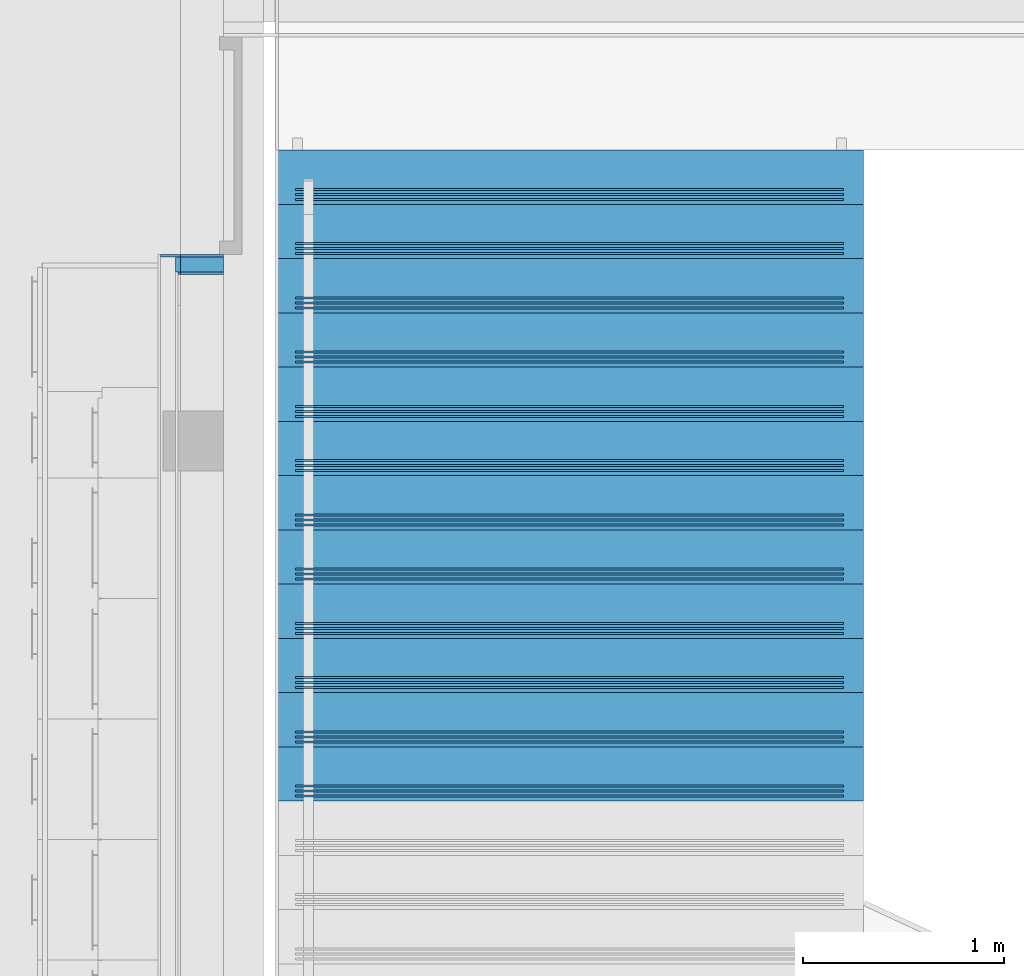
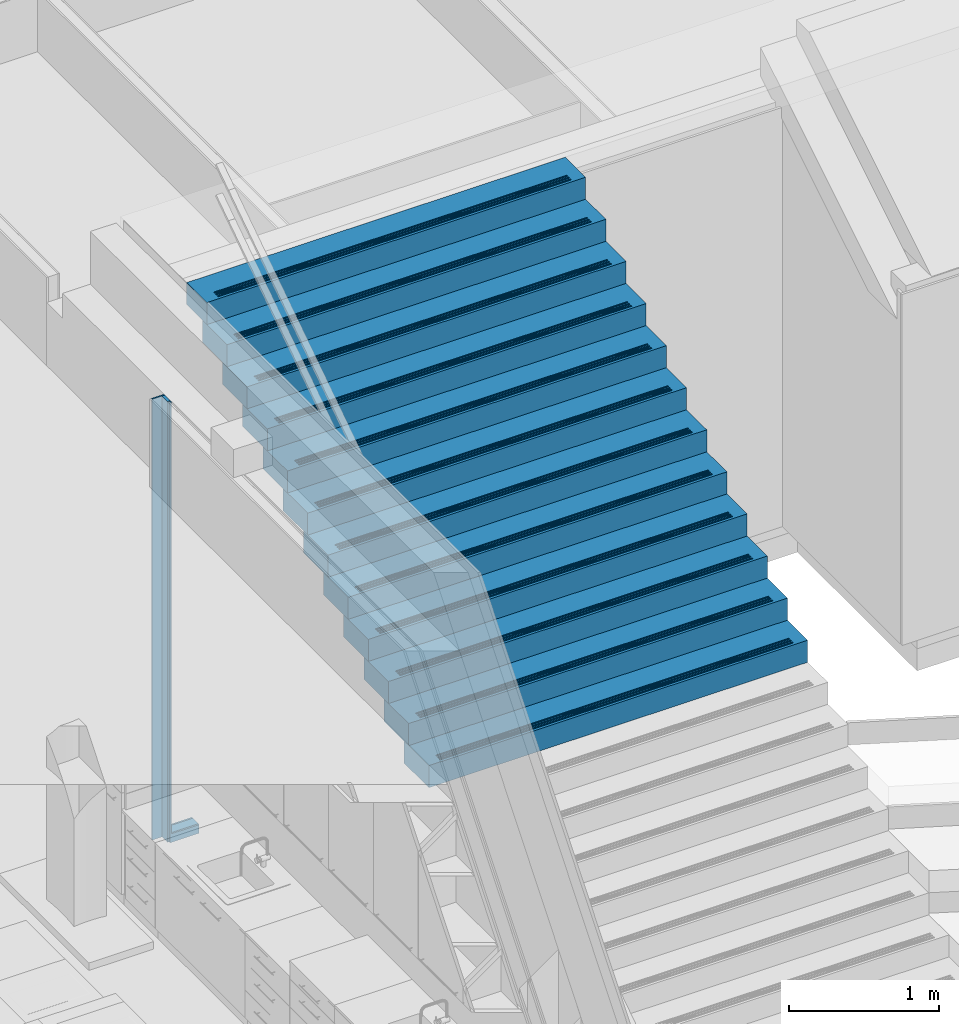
# One storey, part 69 of 167: 27 building element parts, 14 elements without a shape of their own.
"""IFC2X3 building model written with IfcOpenShell, lengths in millimetres."""

from ifc_helpers import new_model, entity, si_unit, converted_unit, derived_unit, money_unit, direction, frame, origin_with_axes, place, context, subcontext, project, spatial, faceted_brep, material, type_object, element, aggregate, save


model = new_model("IFC2X3")

# Units and contexts
model_context = context("Model", 3, precision=0.01, world=origin_with_axes(), true_north=direction((0.0, 1.0)))
plan_context = context("Plan", 3, precision=0.01, world=origin_with_axes(), true_north=direction((0.0, 1.0)))
body_context = subcontext(model_context, "Body", "Model", "MODEL_VIEW")
ifc_project = project(units=[si_unit("LENGTHUNIT", "METRE", prefix="MILLI"), si_unit("AREAUNIT", "SQUARE_METRE"), si_unit("VOLUMEUNIT", "CUBIC_METRE"), converted_unit("PLANEANGLEUNIT", "DEGREE", entity("IfcPlaneAngleMeasure", 0.0174532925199), si_unit("PLANEANGLEUNIT", "RADIAN"), dimensions=[0, 0, 0, 0, 0, 0, 0]), si_unit("SOLIDANGLEUNIT", "STERADIAN"), money_unit("EUR"), converted_unit("TIMEUNIT", "Year", entity("IfcTimeMeasure", 31556926.0), si_unit("TIMEUNIT", "SECOND"), dimensions=[0, 0, 1, 0, 0, 0, 0]), si_unit("MASSUNIT", "GRAM", prefix="KILO"), si_unit("THERMODYNAMICTEMPERATUREUNIT", "DEGREE_CELSIUS"), si_unit("LUMINOUSINTENSITYUNIT", "LUMEN"), si_unit("ENERGYUNIT", "JOULE", prefix="MEGA"), derived_unit("THERMALCONDUCTANCEUNIT", [(si_unit("POWERUNIT", "WATT"), 1), (si_unit("LENGTHUNIT", "METRE"), -1), (si_unit("THERMODYNAMICTEMPERATUREUNIT", "KELVIN"), -1)]), derived_unit("SPECIFICHEATCAPACITYUNIT", [(si_unit("ENERGYUNIT", "JOULE"), 1), (si_unit("MASSUNIT", "GRAM", prefix="KILO"), -1), (si_unit("THERMODYNAMICTEMPERATUREUNIT", "KELVIN"), -1)]), derived_unit("MASSDENSITYUNIT", [(si_unit("MASSUNIT", "GRAM", prefix="KILO"), 1), (si_unit("VOLUMEUNIT", "CUBIC_METRE"), -1)])], contexts=[model_context, plan_context])

# Site, building, storey
site_placement = place(None, origin_with_axes())
site = spatial("IfcSite", under=ifc_project, at=site_placement, Name="Site", CompositionType="ELEMENT")
building_placement = place(site_placement, origin_with_axes())
building = spatial("IfcBuilding", under=site, at=building_placement, Name="Naam gebouw", CompositionType="ELEMENT")
storey_placement = place(building_placement, origin_with_axes())
storey = spatial("IfcBuildingStorey", under=building, at=storey_placement, Name="Begane grond", CompositionType="ELEMENT", Elevation=0.0)

# Stair, members, building element parts
stair_placement = place(storey_placement, frame((29059.9559721, 24308.0128651, 0.0), z_axis=(0.0, 0.0, 1.0), x_axis=(1.0, 0.0, 0.0)))
stair = element("IfcStair", 1, at=stair_placement, inside=storey, Name="_Trap_Trap-x", ShapeType="NOTDEFINED")
member_type = type_object("IfcMemberType", Name="IfcMember", PredefinedType="USERDEFINED")
member_1_placement = place(stair_placement, frame((1500.0, 2700.0, 1980.0), z_axis=(0.0, 0.0, 1.0), x_axis=(1.0, 0.0, 0.0)))
member_1 = element("IfcMember", 2, at=member_1_placement, type_object=member_type, Name="_Trap - trede_Traptrede-x")
ifc_material_1 = material(Name="Beton gewapend prefab")
building_element_part_1_placement = place(member_1_placement, origin_with_axes())
building_element_part_1 = element("IfcBuildingElementPart", 3, at=building_element_part_1_placement, material=ifc_material_1, Name="Beton gewapend prefab", context=body_context, shape_type="Brep", body=[
    faceted_brep([(-1500.0, 0.0, -180.0), (1426.0418928, 0.0, -180.0), (1426.0418928, 0.0, 0.0), (-1500.0, 0.0, 0.0), (-1500.0, 329.999987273, -180.0), (1426.0418928, 329.999987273, -180.0), (1426.0418928, 329.999987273, 0.0), (-1500.0, 329.999987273, 0.0)], [[[0, 1, 2, 3]], [[0, 4, 5, 1]], [[1, 5, 6, 2]], [[3, 2, 6, 7]], [[4, 0, 3, 7]], [[5, 4, 7, 6]]]),
])
ifc_material_2 = material(Name="Beton gewapend prefab vloer")
building_element_part_2_placement = place(member_1_placement, origin_with_axes())
building_element_part_2 = element("IfcBuildingElementPart", 4, at=building_element_part_2_placement, material=ifc_material_2, Name="Beton gewapend prefab vloer", context=body_context, shape_type="Brep", body=[
    faceted_brep([(-1399.99999989, 19.9999913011, 0.0), (-1399.99999989, 29.9999913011, 0.0), (1326.04189269, 29.9999913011, 0.0), (1326.04189269, 19.9999913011, 0.0), (-1399.99999989, 19.9999913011, 3.0), (-1399.99999989, 29.9999913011, 3.0), (1326.04189269, 29.9999913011, 3.0), (1326.04189269, 19.9999913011, 3.0)], [[[0, 1, 2, 3]], [[0, 4, 5, 1]], [[1, 5, 6, 2]], [[3, 2, 6, 7]], [[4, 0, 3, 7]], [[5, 4, 7, 6]]]),
    faceted_brep([(-1399.99999989, 44.9999804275, 0.0), (-1399.99999989, 54.9999804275, 0.0), (1326.04189269, 54.9999804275, 0.0), (1326.04189269, 44.9999804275, 0.0), (-1399.99999989, 44.9999804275, 3.0), (-1399.99999989, 54.9999804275, 3.0), (1326.04189269, 54.9999804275, 3.0), (1326.04189269, 44.9999804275, 3.0)], [[[0, 1, 2, 3]], [[0, 4, 5, 1]], [[1, 5, 6, 2]], [[3, 2, 6, 7]], [[4, 0, 3, 7]], [[5, 4, 7, 6]]]),
    faceted_brep([(-1399.99999989, 70.0000131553, 0.0), (-1399.99999989, 80.0000131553, 0.0), (1326.04189269, 80.0000131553, 0.0), (1326.04189269, 70.0000131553, 0.0), (-1399.99999989, 70.0000131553, 3.0), (-1399.99999989, 80.0000131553, 3.0), (1326.04189269, 80.0000131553, 3.0), (1326.04189269, 70.0000131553, 3.0)], [[[0, 1, 2, 3]], [[0, 4, 5, 1]], [[1, 5, 6, 2]], [[3, 2, 6, 7]], [[4, 0, 3, 7]], [[5, 4, 7, 6]]]),
])
aggregate(member_1, [building_element_part_1, building_element_part_2])
member_2_placement = place(stair_placement, frame((1500.0, 2970.0, 2160.0), z_axis=(0.0, 0.0, 1.0), x_axis=(1.0, 0.0, 0.0)))
member_2 = element("IfcMember", 5, at=member_2_placement, type_object=member_type, Name="_Trap - trede_Traptrede-x")
building_element_part_3_placement = place(member_2_placement, origin_with_axes())
building_element_part_3 = element("IfcBuildingElementPart", 6, at=building_element_part_3_placement, material=ifc_material_1, Name="Beton gewapend prefab", context=body_context, shape_type="Brep", body=[
    faceted_brep([(-1500.0, 0.0, -180.0), (1426.0418928, 0.0, -180.0), (1426.0418928, 0.0, 0.0), (-1500.0, 0.0, 0.0), (-1500.0, 329.999987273, -180.0), (1426.0418928, 329.999987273, -180.0), (1426.0418928, 329.999987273, 0.0), (-1500.0, 329.999987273, 0.0)], [[[0, 1, 2, 3]], [[0, 4, 5, 1]], [[1, 5, 6, 2]], [[3, 2, 6, 7]], [[4, 0, 3, 7]], [[5, 4, 7, 6]]]),
])
building_element_part_4_placement = place(member_2_placement, origin_with_axes())
building_element_part_4 = element("IfcBuildingElementPart", 7, at=building_element_part_4_placement, material=ifc_material_2, Name="Beton gewapend prefab vloer", context=body_context, shape_type="Brep", body=[
    faceted_brep([(-1399.99999989, 19.9999913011, 0.0), (-1399.99999989, 29.9999913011, 0.0), (1326.04189269, 29.9999913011, 0.0), (1326.04189269, 19.9999913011, 0.0), (-1399.99999989, 19.9999913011, 3.0), (-1399.99999989, 29.9999913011, 3.0), (1326.04189269, 29.9999913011, 3.0), (1326.04189269, 19.9999913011, 3.0)], [[[0, 1, 2, 3]], [[0, 4, 5, 1]], [[1, 5, 6, 2]], [[3, 2, 6, 7]], [[4, 0, 3, 7]], [[5, 4, 7, 6]]]),
    faceted_brep([(-1399.99999989, 44.9999804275, 0.0), (-1399.99999989, 54.9999804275, 0.0), (1326.04189269, 54.9999804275, 0.0), (1326.04189269, 44.9999804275, 0.0), (-1399.99999989, 44.9999804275, 3.0), (-1399.99999989, 54.9999804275, 3.0), (1326.04189269, 54.9999804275, 3.0), (1326.04189269, 44.9999804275, 3.0)], [[[0, 1, 2, 3]], [[0, 4, 5, 1]], [[1, 5, 6, 2]], [[3, 2, 6, 7]], [[4, 0, 3, 7]], [[5, 4, 7, 6]]]),
    faceted_brep([(-1399.99999989, 70.0000131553, 0.0), (-1399.99999989, 80.0000131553, 0.0), (1326.04189269, 80.0000131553, 0.0), (1326.04189269, 70.0000131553, 0.0), (-1399.99999989, 70.0000131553, 3.0), (-1399.99999989, 80.0000131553, 3.0), (1326.04189269, 80.0000131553, 3.0), (1326.04189269, 70.0000131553, 3.0)], [[[0, 1, 2, 3]], [[0, 4, 5, 1]], [[1, 5, 6, 2]], [[3, 2, 6, 7]], [[4, 0, 3, 7]], [[5, 4, 7, 6]]]),
])
aggregate(member_2, [building_element_part_3, building_element_part_4])
member_3_placement = place(stair_placement, frame((1500.0, 3240.0, 2340.0), z_axis=(0.0, 0.0, 1.0), x_axis=(1.0, 0.0, 0.0)))
member_3 = element("IfcMember", 8, at=member_3_placement, type_object=member_type, Name="_Trap - trede_Traptrede-x")
building_element_part_5_placement = place(member_3_placement, origin_with_axes())
building_element_part_5 = element("IfcBuildingElementPart", 9, at=building_element_part_5_placement, material=ifc_material_1, Name="Beton gewapend prefab", context=body_context, shape_type="Brep", body=[
    faceted_brep([(-1500.0, 0.0, -180.0), (1426.0418928, 0.0, -180.0), (1426.0418928, 0.0, 0.0), (-1500.0, 0.0, 0.0), (-1500.0, 329.999987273, -180.0), (1426.0418928, 329.999987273, -180.0), (1426.0418928, 329.999987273, 0.0), (-1500.0, 329.999987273, 0.0)], [[[0, 1, 2, 3]], [[0, 4, 5, 1]], [[1, 5, 6, 2]], [[3, 2, 6, 7]], [[4, 0, 3, 7]], [[5, 4, 7, 6]]]),
])
building_element_part_6_placement = place(member_3_placement, origin_with_axes())
building_element_part_6 = element("IfcBuildingElementPart", 10, at=building_element_part_6_placement, material=ifc_material_2, Name="Beton gewapend prefab vloer", context=body_context, shape_type="Brep", body=[
    faceted_brep([(-1399.99999989, 19.9999913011, 0.0), (-1399.99999989, 29.9999913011, 0.0), (1326.04189269, 29.9999913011, 0.0), (1326.04189269, 19.9999913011, 0.0), (-1399.99999989, 19.9999913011, 3.0), (-1399.99999989, 29.9999913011, 3.0), (1326.04189269, 29.9999913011, 3.0), (1326.04189269, 19.9999913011, 3.0)], [[[0, 1, 2, 3]], [[0, 4, 5, 1]], [[1, 5, 6, 2]], [[3, 2, 6, 7]], [[4, 0, 3, 7]], [[5, 4, 7, 6]]]),
    faceted_brep([(-1399.99999989, 44.9999804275, 0.0), (-1399.99999989, 54.9999804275, 0.0), (1326.04189269, 54.9999804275, 0.0), (1326.04189269, 44.9999804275, 0.0), (-1399.99999989, 44.9999804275, 3.0), (-1399.99999989, 54.9999804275, 3.0), (1326.04189269, 54.9999804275, 3.0), (1326.04189269, 44.9999804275, 3.0)], [[[0, 1, 2, 3]], [[0, 4, 5, 1]], [[1, 5, 6, 2]], [[3, 2, 6, 7]], [[4, 0, 3, 7]], [[5, 4, 7, 6]]]),
    faceted_brep([(-1399.99999989, 70.0000131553, 0.0), (-1399.99999989, 80.0000131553, 0.0), (1326.04189269, 80.0000131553, 0.0), (1326.04189269, 70.0000131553, 0.0), (-1399.99999989, 70.0000131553, 3.0), (-1399.99999989, 80.0000131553, 3.0), (1326.04189269, 80.0000131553, 3.0), (1326.04189269, 70.0000131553, 3.0)], [[[0, 1, 2, 3]], [[0, 4, 5, 1]], [[1, 5, 6, 2]], [[3, 2, 6, 7]], [[4, 0, 3, 7]], [[5, 4, 7, 6]]]),
])
aggregate(member_3, [building_element_part_5, building_element_part_6])
member_4_placement = place(stair_placement, frame((1500.0, 3510.0, 2520.0), z_axis=(0.0, 0.0, 1.0), x_axis=(1.0, 0.0, 0.0)))
member_4 = element("IfcMember", 11, at=member_4_placement, type_object=member_type, Name="_Trap - trede_Traptrede-x")
building_element_part_7_placement = place(member_4_placement, origin_with_axes())
building_element_part_7 = element("IfcBuildingElementPart", 12, at=building_element_part_7_placement, material=ifc_material_1, Name="Beton gewapend prefab", context=body_context, shape_type="Brep", body=[
    faceted_brep([(-1500.0, 0.0, -180.0), (1426.0418928, 0.0, -180.0), (1426.0418928, 0.0, 0.0), (-1500.0, 0.0, 0.0), (-1500.0, 329.999987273, -180.0), (1426.0418928, 329.999987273, -180.0), (1426.0418928, 329.999987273, 0.0), (-1500.0, 329.999987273, 0.0)], [[[0, 1, 2, 3]], [[0, 4, 5, 1]], [[1, 5, 6, 2]], [[3, 2, 6, 7]], [[4, 0, 3, 7]], [[5, 4, 7, 6]]]),
])
building_element_part_8_placement = place(member_4_placement, origin_with_axes())
building_element_part_8 = element("IfcBuildingElementPart", 13, at=building_element_part_8_placement, material=ifc_material_2, Name="Beton gewapend prefab vloer", context=body_context, shape_type="Brep", body=[
    faceted_brep([(-1399.99999989, 19.9999913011, 0.0), (-1399.99999989, 29.9999913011, 0.0), (1326.04189269, 29.9999913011, 0.0), (1326.04189269, 19.9999913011, 0.0), (-1399.99999989, 19.9999913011, 3.0), (-1399.99999989, 29.9999913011, 3.0), (1326.04189269, 29.9999913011, 3.0), (1326.04189269, 19.9999913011, 3.0)], [[[0, 1, 2, 3]], [[0, 4, 5, 1]], [[1, 5, 6, 2]], [[3, 2, 6, 7]], [[4, 0, 3, 7]], [[5, 4, 7, 6]]]),
    faceted_brep([(-1399.99999989, 44.9999804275, 0.0), (-1399.99999989, 54.9999804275, 0.0), (1326.04189269, 54.9999804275, 0.0), (1326.04189269, 44.9999804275, 0.0), (-1399.99999989, 44.9999804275, 3.0), (-1399.99999989, 54.9999804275, 3.0), (1326.04189269, 54.9999804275, 3.0), (1326.04189269, 44.9999804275, 3.0)], [[[0, 1, 2, 3]], [[0, 4, 5, 1]], [[1, 5, 6, 2]], [[3, 2, 6, 7]], [[4, 0, 3, 7]], [[5, 4, 7, 6]]]),
    faceted_brep([(-1399.99999989, 70.0000131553, 0.0), (-1399.99999989, 80.0000131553, 0.0), (1326.04189269, 80.0000131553, 0.0), (1326.04189269, 70.0000131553, 0.0), (-1399.99999989, 70.0000131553, 3.0), (-1399.99999989, 80.0000131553, 3.0), (1326.04189269, 80.0000131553, 3.0), (1326.04189269, 70.0000131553, 3.0)], [[[0, 1, 2, 3]], [[0, 4, 5, 1]], [[1, 5, 6, 2]], [[3, 2, 6, 7]], [[4, 0, 3, 7]], [[5, 4, 7, 6]]]),
])
aggregate(member_4, [building_element_part_7, building_element_part_8])
member_5_placement = place(stair_placement, frame((1500.0, 3780.0, 2700.0), z_axis=(0.0, 0.0, 1.0), x_axis=(1.0, 0.0, 0.0)))
member_5 = element("IfcMember", 14, at=member_5_placement, type_object=member_type, Name="_Trap - trede_Traptrede-x")
building_element_part_9_placement = place(member_5_placement, origin_with_axes())
building_element_part_9 = element("IfcBuildingElementPart", 15, at=building_element_part_9_placement, material=ifc_material_1, Name="Beton gewapend prefab", context=body_context, shape_type="Brep", body=[
    faceted_brep([(-1500.0, 0.0, -180.0), (1426.0418928, 0.0, -180.0), (1426.0418928, 0.0, 0.0), (-1500.0, 0.0, 0.0), (-1500.0, 329.999987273, -180.0), (1426.0418928, 329.999987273, -180.0), (1426.0418928, 329.999987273, 0.0), (-1500.0, 329.999987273, 0.0)], [[[0, 1, 2, 3]], [[0, 4, 5, 1]], [[1, 5, 6, 2]], [[3, 2, 6, 7]], [[4, 0, 3, 7]], [[5, 4, 7, 6]]]),
])
building_element_part_10_placement = place(member_5_placement, origin_with_axes())
building_element_part_10 = element("IfcBuildingElementPart", 16, at=building_element_part_10_placement, material=ifc_material_2, Name="Beton gewapend prefab vloer", context=body_context, shape_type="Brep", body=[
    faceted_brep([(-1399.99999989, 19.9999913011, 0.0), (-1399.99999989, 29.9999913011, 0.0), (1326.04189269, 29.9999913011, 0.0), (1326.04189269, 19.9999913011, 0.0), (-1399.99999989, 19.9999913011, 3.0), (-1399.99999989, 29.9999913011, 3.0), (1326.04189269, 29.9999913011, 3.0), (1326.04189269, 19.9999913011, 3.0)], [[[0, 1, 2, 3]], [[0, 4, 5, 1]], [[1, 5, 6, 2]], [[3, 2, 6, 7]], [[4, 0, 3, 7]], [[5, 4, 7, 6]]]),
    faceted_brep([(-1399.99999989, 44.9999804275, 0.0), (-1399.99999989, 54.9999804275, 0.0), (1326.04189269, 54.9999804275, 0.0), (1326.04189269, 44.9999804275, 0.0), (-1399.99999989, 44.9999804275, 3.0), (-1399.99999989, 54.9999804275, 3.0), (1326.04189269, 54.9999804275, 3.0), (1326.04189269, 44.9999804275, 3.0)], [[[0, 1, 2, 3]], [[0, 4, 5, 1]], [[1, 5, 6, 2]], [[3, 2, 6, 7]], [[4, 0, 3, 7]], [[5, 4, 7, 6]]]),
    faceted_brep([(-1399.99999989, 70.0000131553, 0.0), (-1399.99999989, 80.0000131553, 0.0), (1326.04189269, 80.0000131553, 0.0), (1326.04189269, 70.0000131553, 0.0), (-1399.99999989, 70.0000131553, 3.0), (-1399.99999989, 80.0000131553, 3.0), (1326.04189269, 80.0000131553, 3.0), (1326.04189269, 70.0000131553, 3.0)], [[[0, 1, 2, 3]], [[0, 4, 5, 1]], [[1, 5, 6, 2]], [[3, 2, 6, 7]], [[4, 0, 3, 7]], [[5, 4, 7, 6]]]),
])
aggregate(member_5, [building_element_part_9, building_element_part_10])
member_6_placement = place(stair_placement, frame((1500.0, 4050.0, 2880.0), z_axis=(0.0, 0.0, 1.0), x_axis=(1.0, 0.0, 0.0)))
member_6 = element("IfcMember", 17, at=member_6_placement, type_object=member_type, Name="_Trap - trede_Traptrede-x")
building_element_part_11_placement = place(member_6_placement, origin_with_axes())
building_element_part_11 = element("IfcBuildingElementPart", 18, at=building_element_part_11_placement, material=ifc_material_1, Name="Beton gewapend prefab", context=body_context, shape_type="Brep", body=[
    faceted_brep([(-1500.0, 0.0, -180.0), (1426.0418928, 0.0, -180.0), (1426.0418928, 0.0, 0.0), (-1500.0, 0.0, 0.0), (-1500.0, 329.999987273, -180.0), (1426.0418928, 329.999987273, -180.0), (1426.0418928, 329.999987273, 0.0), (-1500.0, 329.999987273, 0.0)], [[[0, 1, 2, 3]], [[0, 4, 5, 1]], [[1, 5, 6, 2]], [[3, 2, 6, 7]], [[4, 0, 3, 7]], [[5, 4, 7, 6]]]),
])
building_element_part_12_placement = place(member_6_placement, origin_with_axes())
building_element_part_12 = element("IfcBuildingElementPart", 19, at=building_element_part_12_placement, material=ifc_material_2, Name="Beton gewapend prefab vloer", context=body_context, shape_type="Brep", body=[
    faceted_brep([(-1399.99999989, 19.9999913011, 0.0), (-1399.99999989, 29.9999913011, 0.0), (1326.04189269, 29.9999913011, 0.0), (1326.04189269, 19.9999913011, 0.0), (-1399.99999989, 19.9999913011, 3.0), (-1399.99999989, 29.9999913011, 3.0), (1326.04189269, 29.9999913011, 3.0), (1326.04189269, 19.9999913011, 3.0)], [[[0, 1, 2, 3]], [[0, 4, 5, 1]], [[1, 5, 6, 2]], [[3, 2, 6, 7]], [[4, 0, 3, 7]], [[5, 4, 7, 6]]]),
    faceted_brep([(-1399.99999989, 44.9999804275, 0.0), (-1399.99999989, 54.9999804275, 0.0), (1326.04189269, 54.9999804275, 0.0), (1326.04189269, 44.9999804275, 0.0), (-1399.99999989, 44.9999804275, 3.0), (-1399.99999989, 54.9999804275, 3.0), (1326.04189269, 54.9999804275, 3.0), (1326.04189269, 44.9999804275, 3.0)], [[[0, 1, 2, 3]], [[0, 4, 5, 1]], [[1, 5, 6, 2]], [[3, 2, 6, 7]], [[4, 0, 3, 7]], [[5, 4, 7, 6]]]),
    faceted_brep([(-1399.99999989, 70.0000131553, 0.0), (-1399.99999989, 80.0000131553, 0.0), (1326.04189269, 80.0000131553, 0.0), (1326.04189269, 70.0000131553, 0.0), (-1399.99999989, 70.0000131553, 3.0), (-1399.99999989, 80.0000131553, 3.0), (1326.04189269, 80.0000131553, 3.0), (1326.04189269, 70.0000131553, 3.0)], [[[0, 1, 2, 3]], [[0, 4, 5, 1]], [[1, 5, 6, 2]], [[3, 2, 6, 7]], [[4, 0, 3, 7]], [[5, 4, 7, 6]]]),
])
aggregate(member_6, [building_element_part_11, building_element_part_12])
member_7_placement = place(stair_placement, frame((1500.0, 4320.0, 3060.0), z_axis=(0.0, 0.0, 1.0), x_axis=(1.0, 0.0, 0.0)))
member_7 = element("IfcMember", 20, at=member_7_placement, type_object=member_type, Name="_Trap - trede_Traptrede-x")
building_element_part_13_placement = place(member_7_placement, origin_with_axes())
building_element_part_13 = element("IfcBuildingElementPart", 21, at=building_element_part_13_placement, material=ifc_material_1, Name="Beton gewapend prefab", context=body_context, shape_type="Brep", body=[
    faceted_brep([(-1500.0, 0.0, -180.0), (1426.0418928, 0.0, -180.0), (1426.0418928, 0.0, 0.0), (-1500.0, 0.0, 0.0), (-1500.0, 329.999987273, -180.0), (1426.0418928, 329.999987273, -180.0), (1426.0418928, 329.999987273, 0.0), (-1500.0, 329.999987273, 0.0)], [[[0, 1, 2, 3]], [[0, 4, 5, 1]], [[1, 5, 6, 2]], [[3, 2, 6, 7]], [[4, 0, 3, 7]], [[5, 4, 7, 6]]]),
])
building_element_part_14_placement = place(member_7_placement, origin_with_axes())
building_element_part_14 = element("IfcBuildingElementPart", 22, at=building_element_part_14_placement, material=ifc_material_2, Name="Beton gewapend prefab vloer", context=body_context, shape_type="Brep", body=[
    faceted_brep([(-1399.99999989, 19.9999913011, 0.0), (-1399.99999989, 29.9999913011, 0.0), (1326.04189269, 29.9999913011, 0.0), (1326.04189269, 19.9999913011, 0.0), (-1399.99999989, 19.9999913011, 3.0), (-1399.99999989, 29.9999913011, 3.0), (1326.04189269, 29.9999913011, 3.0), (1326.04189269, 19.9999913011, 3.0)], [[[0, 1, 2, 3]], [[0, 4, 5, 1]], [[1, 5, 6, 2]], [[3, 2, 6, 7]], [[4, 0, 3, 7]], [[5, 4, 7, 6]]]),
    faceted_brep([(-1399.99999989, 44.9999804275, 0.0), (-1399.99999989, 54.9999804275, 0.0), (1326.04189269, 54.9999804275, 0.0), (1326.04189269, 44.9999804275, 0.0), (-1399.99999989, 44.9999804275, 3.0), (-1399.99999989, 54.9999804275, 3.0), (1326.04189269, 54.9999804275, 3.0), (1326.04189269, 44.9999804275, 3.0)], [[[0, 1, 2, 3]], [[0, 4, 5, 1]], [[1, 5, 6, 2]], [[3, 2, 6, 7]], [[4, 0, 3, 7]], [[5, 4, 7, 6]]]),
    faceted_brep([(-1399.99999989, 70.0000131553, 0.0), (-1399.99999989, 80.0000131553, 0.0), (1326.04189269, 80.0000131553, 0.0), (1326.04189269, 70.0000131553, 0.0), (-1399.99999989, 70.0000131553, 3.0), (-1399.99999989, 80.0000131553, 3.0), (1326.04189269, 80.0000131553, 3.0), (1326.04189269, 70.0000131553, 3.0)], [[[0, 1, 2, 3]], [[0, 4, 5, 1]], [[1, 5, 6, 2]], [[3, 2, 6, 7]], [[4, 0, 3, 7]], [[5, 4, 7, 6]]]),
])
aggregate(member_7, [building_element_part_13, building_element_part_14])
member_8_placement = place(stair_placement, frame((1500.0, 4590.0, 3240.0), z_axis=(0.0, 0.0, 1.0), x_axis=(1.0, 0.0, 0.0)))
member_8 = element("IfcMember", 23, at=member_8_placement, type_object=member_type, Name="_Trap - trede_Traptrede-x")
building_element_part_15_placement = place(member_8_placement, origin_with_axes())
building_element_part_15 = element("IfcBuildingElementPart", 24, at=building_element_part_15_placement, material=ifc_material_1, Name="Beton gewapend prefab", context=body_context, shape_type="Brep", body=[
    faceted_brep([(-1500.0, 0.0, -180.0), (1426.0418928, 0.0, -180.0), (1426.0418928, 0.0, 0.0), (-1500.0, 0.0, 0.0), (-1500.0, 329.999987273, -180.0), (1426.0418928, 329.999987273, -180.0), (1426.0418928, 329.999987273, 0.0), (-1500.0, 329.999987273, 0.0)], [[[0, 1, 2, 3]], [[0, 4, 5, 1]], [[1, 5, 6, 2]], [[3, 2, 6, 7]], [[4, 0, 3, 7]], [[5, 4, 7, 6]]]),
])
building_element_part_16_placement = place(member_8_placement, origin_with_axes())
building_element_part_16 = element("IfcBuildingElementPart", 25, at=building_element_part_16_placement, material=ifc_material_2, Name="Beton gewapend prefab vloer", context=body_context, shape_type="Brep", body=[
    faceted_brep([(-1399.99999989, 19.9999913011, 0.0), (-1399.99999989, 29.9999913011, 0.0), (1326.04189269, 29.9999913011, 0.0), (1326.04189269, 19.9999913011, 0.0), (-1399.99999989, 19.9999913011, 3.0), (-1399.99999989, 29.9999913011, 3.0), (1326.04189269, 29.9999913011, 3.0), (1326.04189269, 19.9999913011, 3.0)], [[[0, 1, 2, 3]], [[0, 4, 5, 1]], [[1, 5, 6, 2]], [[3, 2, 6, 7]], [[4, 0, 3, 7]], [[5, 4, 7, 6]]]),
    faceted_brep([(-1399.99999989, 44.9999804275, 0.0), (-1399.99999989, 54.9999804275, 0.0), (1326.04189269, 54.9999804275, 0.0), (1326.04189269, 44.9999804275, 0.0), (-1399.99999989, 44.9999804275, 3.0), (-1399.99999989, 54.9999804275, 3.0), (1326.04189269, 54.9999804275, 3.0), (1326.04189269, 44.9999804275, 3.0)], [[[0, 1, 2, 3]], [[0, 4, 5, 1]], [[1, 5, 6, 2]], [[3, 2, 6, 7]], [[4, 0, 3, 7]], [[5, 4, 7, 6]]]),
    faceted_brep([(-1399.99999989, 70.0000131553, 0.0), (-1399.99999989, 80.0000131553, 0.0), (1326.04189269, 80.0000131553, 0.0), (1326.04189269, 70.0000131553, 0.0), (-1399.99999989, 70.0000131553, 3.0), (-1399.99999989, 80.0000131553, 3.0), (1326.04189269, 80.0000131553, 3.0), (1326.04189269, 70.0000131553, 3.0)], [[[0, 1, 2, 3]], [[0, 4, 5, 1]], [[1, 5, 6, 2]], [[3, 2, 6, 7]], [[4, 0, 3, 7]], [[5, 4, 7, 6]]]),
])
aggregate(member_8, [building_element_part_15, building_element_part_16])
member_9_placement = place(stair_placement, frame((1500.0, 4860.0, 3420.0), z_axis=(0.0, 0.0, 1.0), x_axis=(1.0, 0.0, 0.0)))
member_9 = element("IfcMember", 26, at=member_9_placement, type_object=member_type, Name="_Trap - trede_Traptrede-x")
building_element_part_17_placement = place(member_9_placement, origin_with_axes())
building_element_part_17 = element("IfcBuildingElementPart", 27, at=building_element_part_17_placement, material=ifc_material_1, Name="Beton gewapend prefab", context=body_context, shape_type="Brep", body=[
    faceted_brep([(-1500.0, 0.0, -180.0), (1426.0418928, 0.0, -180.0), (1426.0418928, 0.0, 0.0), (-1500.0, 0.0, 0.0), (-1500.0, 329.999987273, -180.0), (1426.0418928, 329.999987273, -180.0), (1426.0418928, 329.999987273, 0.0), (-1500.0, 329.999987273, 0.0)], [[[0, 1, 2, 3]], [[0, 4, 5, 1]], [[1, 5, 6, 2]], [[3, 2, 6, 7]], [[4, 0, 3, 7]], [[5, 4, 7, 6]]]),
])
building_element_part_18_placement = place(member_9_placement, origin_with_axes())
building_element_part_18 = element("IfcBuildingElementPart", 28, at=building_element_part_18_placement, material=ifc_material_2, Name="Beton gewapend prefab vloer", context=body_context, shape_type="Brep", body=[
    faceted_brep([(-1399.99999989, 19.9999913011, 0.0), (-1399.99999989, 29.9999913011, 0.0), (1326.04189269, 29.9999913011, 0.0), (1326.04189269, 19.9999913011, 0.0), (-1399.99999989, 19.9999913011, 3.0), (-1399.99999989, 29.9999913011, 3.0), (1326.04189269, 29.9999913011, 3.0), (1326.04189269, 19.9999913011, 3.0)], [[[0, 1, 2, 3]], [[0, 4, 5, 1]], [[1, 5, 6, 2]], [[3, 2, 6, 7]], [[4, 0, 3, 7]], [[5, 4, 7, 6]]]),
    faceted_brep([(-1399.99999989, 44.9999804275, 0.0), (-1399.99999989, 54.9999804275, 0.0), (1326.04189269, 54.9999804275, 0.0), (1326.04189269, 44.9999804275, 0.0), (-1399.99999989, 44.9999804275, 3.0), (-1399.99999989, 54.9999804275, 3.0), (1326.04189269, 54.9999804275, 3.0), (1326.04189269, 44.9999804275, 3.0)], [[[0, 1, 2, 3]], [[0, 4, 5, 1]], [[1, 5, 6, 2]], [[3, 2, 6, 7]], [[4, 0, 3, 7]], [[5, 4, 7, 6]]]),
    faceted_brep([(-1399.99999989, 70.0000131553, 0.0), (-1399.99999989, 80.0000131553, 0.0), (1326.04189269, 80.0000131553, 0.0), (1326.04189269, 70.0000131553, 0.0), (-1399.99999989, 70.0000131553, 3.0), (-1399.99999989, 80.0000131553, 3.0), (1326.04189269, 80.0000131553, 3.0), (1326.04189269, 70.0000131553, 3.0)], [[[0, 1, 2, 3]], [[0, 4, 5, 1]], [[1, 5, 6, 2]], [[3, 2, 6, 7]], [[4, 0, 3, 7]], [[5, 4, 7, 6]]]),
])
aggregate(member_9, [building_element_part_17, building_element_part_18])
member_10_placement = place(stair_placement, frame((1500.0, 5130.0, 3600.0), z_axis=(0.0, 0.0, 1.0), x_axis=(1.0, 0.0, 0.0)))
member_10 = element("IfcMember", 29, at=member_10_placement, type_object=member_type, Name="_Trap - trede_Traptrede-x")
building_element_part_19_placement = place(member_10_placement, origin_with_axes())
building_element_part_19 = element("IfcBuildingElementPart", 30, at=building_element_part_19_placement, material=ifc_material_1, Name="Beton gewapend prefab", context=body_context, shape_type="Brep", body=[
    faceted_brep([(-1500.0, 0.0, -180.0), (1426.0418928, 0.0, -180.0), (1426.0418928, 0.0, 0.0), (-1500.0, 0.0, 0.0), (-1500.0, 329.999987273, -180.0), (1426.0418928, 329.999987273, -180.0), (1426.0418928, 329.999987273, 0.0), (-1500.0, 329.999987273, 0.0)], [[[0, 1, 2, 3]], [[0, 4, 5, 1]], [[1, 5, 6, 2]], [[3, 2, 6, 7]], [[4, 0, 3, 7]], [[5, 4, 7, 6]]]),
])
building_element_part_20_placement = place(member_10_placement, origin_with_axes())
building_element_part_20 = element("IfcBuildingElementPart", 31, at=building_element_part_20_placement, material=ifc_material_2, Name="Beton gewapend prefab vloer", context=body_context, shape_type="Brep", body=[
    faceted_brep([(-1399.99999989, 19.9999913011, 0.0), (-1399.99999989, 29.9999913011, 0.0), (1326.04189269, 29.9999913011, 0.0), (1326.04189269, 19.9999913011, 0.0), (-1399.99999989, 19.9999913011, 3.0), (-1399.99999989, 29.9999913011, 3.0), (1326.04189269, 29.9999913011, 3.0), (1326.04189269, 19.9999913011, 3.0)], [[[0, 1, 2, 3]], [[0, 4, 5, 1]], [[1, 5, 6, 2]], [[3, 2, 6, 7]], [[4, 0, 3, 7]], [[5, 4, 7, 6]]]),
    faceted_brep([(-1399.99999989, 44.9999804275, 0.0), (-1399.99999989, 54.9999804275, 0.0), (1326.04189269, 54.9999804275, 0.0), (1326.04189269, 44.9999804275, 0.0), (-1399.99999989, 44.9999804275, 3.0), (-1399.99999989, 54.9999804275, 3.0), (1326.04189269, 54.9999804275, 3.0), (1326.04189269, 44.9999804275, 3.0)], [[[0, 1, 2, 3]], [[0, 4, 5, 1]], [[1, 5, 6, 2]], [[3, 2, 6, 7]], [[4, 0, 3, 7]], [[5, 4, 7, 6]]]),
    faceted_brep([(-1399.99999989, 70.0000131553, 0.0), (-1399.99999989, 80.0000131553, 0.0), (1326.04189269, 80.0000131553, 0.0), (1326.04189269, 70.0000131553, 0.0), (-1399.99999989, 70.0000131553, 3.0), (-1399.99999989, 80.0000131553, 3.0), (1326.04189269, 80.0000131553, 3.0), (1326.04189269, 70.0000131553, 3.0)], [[[0, 1, 2, 3]], [[0, 4, 5, 1]], [[1, 5, 6, 2]], [[3, 2, 6, 7]], [[4, 0, 3, 7]], [[5, 4, 7, 6]]]),
])
aggregate(member_10, [building_element_part_19, building_element_part_20])
member_11_placement = place(stair_placement, frame((1500.0, 5400.0, 3780.0), z_axis=(0.0, 0.0, 1.0), x_axis=(1.0, 0.0, 0.0)))
member_11 = element("IfcMember", 32, at=member_11_placement, type_object=member_type, Name="_Trap - trede_Traptrede-x")
building_element_part_21_placement = place(member_11_placement, origin_with_axes())
building_element_part_21 = element("IfcBuildingElementPart", 33, at=building_element_part_21_placement, material=ifc_material_1, Name="Beton gewapend prefab", context=body_context, shape_type="Brep", body=[
    faceted_brep([(-1500.0, 0.0, -180.0), (1426.0418928, 0.0, -180.0), (1426.0418928, 0.0, 0.0), (-1500.0, 0.0, 0.0), (-1500.0, 329.999987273, -180.0), (1426.0418928, 329.999987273, -180.0), (1426.0418928, 329.999987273, 0.0), (-1500.0, 329.999987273, 0.0)], [[[0, 1, 2, 3]], [[0, 4, 5, 1]], [[1, 5, 6, 2]], [[3, 2, 6, 7]], [[4, 0, 3, 7]], [[5, 4, 7, 6]]]),
])
building_element_part_22_placement = place(member_11_placement, origin_with_axes())
building_element_part_22 = element("IfcBuildingElementPart", 34, at=building_element_part_22_placement, material=ifc_material_2, Name="Beton gewapend prefab vloer", context=body_context, shape_type="Brep", body=[
    faceted_brep([(-1399.99999989, 19.9999913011, 0.0), (-1399.99999989, 29.9999913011, 0.0), (1326.04189269, 29.9999913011, 0.0), (1326.04189269, 19.9999913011, 0.0), (-1399.99999989, 19.9999913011, 3.0), (-1399.99999989, 29.9999913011, 3.0), (1326.04189269, 29.9999913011, 3.0), (1326.04189269, 19.9999913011, 3.0)], [[[0, 1, 2, 3]], [[0, 4, 5, 1]], [[1, 5, 6, 2]], [[3, 2, 6, 7]], [[4, 0, 3, 7]], [[5, 4, 7, 6]]]),
    faceted_brep([(-1399.99999989, 44.9999804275, 0.0), (-1399.99999989, 54.9999804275, 0.0), (1326.04189269, 54.9999804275, 0.0), (1326.04189269, 44.9999804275, 0.0), (-1399.99999989, 44.9999804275, 3.0), (-1399.99999989, 54.9999804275, 3.0), (1326.04189269, 54.9999804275, 3.0), (1326.04189269, 44.9999804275, 3.0)], [[[0, 1, 2, 3]], [[0, 4, 5, 1]], [[1, 5, 6, 2]], [[3, 2, 6, 7]], [[4, 0, 3, 7]], [[5, 4, 7, 6]]]),
    faceted_brep([(-1399.99999989, 70.0000131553, 0.0), (-1399.99999989, 80.0000131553, 0.0), (1326.04189269, 80.0000131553, 0.0), (1326.04189269, 70.0000131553, 0.0), (-1399.99999989, 70.0000131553, 3.0), (-1399.99999989, 80.0000131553, 3.0), (1326.04189269, 80.0000131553, 3.0), (1326.04189269, 70.0000131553, 3.0)], [[[0, 1, 2, 3]], [[0, 4, 5, 1]], [[1, 5, 6, 2]], [[3, 2, 6, 7]], [[4, 0, 3, 7]], [[5, 4, 7, 6]]]),
])
aggregate(member_11, [building_element_part_21, building_element_part_22])
member_12_placement = place(stair_placement, frame((1500.0, 5670.0, 3960.0), z_axis=(0.0, 0.0, 1.0), x_axis=(1.0, 0.0, 0.0)))
member_12 = element("IfcMember", 35, at=member_12_placement, type_object=member_type, Name="_Trap - trede_Traptrede-x")
aggregate(stair, [member_1, member_2, member_3, member_4, member_5, member_6, member_7, member_8, member_9, member_10, member_11, member_12])
building_element_part_23_placement = place(member_12_placement, origin_with_axes())
building_element_part_23 = element("IfcBuildingElementPart", 36, at=building_element_part_23_placement, material=ifc_material_1, Name="Beton gewapend prefab", context=body_context, shape_type="Brep", body=[
    faceted_brep([(-1500.0, 0.0, -180.0), (1426.0418928, 0.0, -180.0), (1426.0418928, 0.0, 0.0), (-1500.0, 0.0, 0.0), (-1500.0, 270.0, -180.0), (1426.0418928, 270.0, -180.0), (1426.0418928, 270.0, 0.0), (-1500.0, 270.0, 0.0)], [[[0, 1, 2, 3]], [[0, 4, 5, 1]], [[1, 5, 6, 2]], [[3, 2, 6, 7]], [[4, 0, 3, 7]], [[5, 4, 7, 6]]]),
])
building_element_part_24_placement = place(member_12_placement, origin_with_axes())
building_element_part_24 = element("IfcBuildingElementPart", 37, at=building_element_part_24_placement, material=ifc_material_2, Name="Beton gewapend prefab vloer", context=body_context, shape_type="Brep", body=[
    faceted_brep([(-1399.99999989, 19.9999913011, 0.0), (-1399.99999989, 29.9999913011, 0.0), (1326.04189269, 29.9999913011, 0.0), (1326.04189269, 19.9999913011, 0.0), (-1399.99999989, 19.9999913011, 3.0), (-1399.99999989, 29.9999913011, 3.0), (1326.04189269, 29.9999913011, 3.0), (1326.04189269, 19.9999913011, 3.0)], [[[0, 1, 2, 3]], [[0, 4, 5, 1]], [[1, 5, 6, 2]], [[3, 2, 6, 7]], [[4, 0, 3, 7]], [[5, 4, 7, 6]]]),
    faceted_brep([(-1399.99999989, 44.9999804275, 0.0), (-1399.99999989, 54.9999804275, 0.0), (1326.04189269, 54.9999804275, 0.0), (1326.04189269, 44.9999804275, 0.0), (-1399.99999989, 44.9999804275, 3.0), (-1399.99999989, 54.9999804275, 3.0), (1326.04189269, 54.9999804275, 3.0), (1326.04189269, 44.9999804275, 3.0)], [[[0, 1, 2, 3]], [[0, 4, 5, 1]], [[1, 5, 6, 2]], [[3, 2, 6, 7]], [[4, 0, 3, 7]], [[5, 4, 7, 6]]]),
    faceted_brep([(-1399.99999989, 70.0000131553, 0.0), (-1399.99999989, 80.0000131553, 0.0), (1326.04189269, 80.0000131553, 0.0), (1326.04189269, 70.0000131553, 0.0), (-1399.99999989, 70.0000131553, 3.0), (-1399.99999989, 80.0000131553, 3.0), (1326.04189269, 80.0000131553, 3.0), (1326.04189269, 70.0000131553, 3.0)], [[[0, 1, 2, 3]], [[0, 4, 5, 1]], [[1, 5, 6, 2]], [[3, 2, 6, 7]], [[4, 0, 3, 7]], [[5, 4, 7, 6]]]),
])
aggregate(member_12, [building_element_part_23, building_element_part_24])

# Wall, building element parts
wall_type = type_object("IfcWallType", Name="_TenW_22_Metalstud 100 enkel gipsvezelplaat 100", PredefinedType="NOTDEFINED")
wall_placement = place(storey_placement, frame((28525.0, 29679.5697738, -100.0), z_axis=(0.0, 0.0, 1.0), x_axis=(1.0, 0.0, 0.0)))
wall = element("IfcWall", 38, at=wall_placement, inside=storey, type_object=wall_type, Name="22_Wand_Wand-x")
ifc_material_3 = material(Name="Gipsplaat watervast")
building_element_part_25_placement = place(wall_placement, origin_with_axes())
building_element_part_25 = element("IfcBuildingElementPart", 39, at=building_element_part_25_placement, material=ifc_material_3, Name="Gipsplaat watervast", context=body_context, shape_type="Brep", body=[
    faceted_brep([(275.0, 37.5, 100.0), (275.0, 37.5, 30.0), (275.0, 50.0, 30.0), (275.0, 50.0, 100.0), (-37.5, 37.5, 3630.0), (-37.5, 37.5, 30.0), (61.0, 37.5, 100.0), (61.0000035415, 37.5, 3630.0), (-37.5, 50.0, 30.0), (-37.5, 50.0, 3630.0), (61.0000035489, 50.0, 3630.0), (61.0, 50.0, 100.0)], [[[0, 1, 2, 3]], [[4, 5, 1, 0, 6, 7]], [[5, 8, 2, 1]], [[3, 2, 8, 9, 10, 11]], [[11, 6, 0, 3]], [[9, 8, 5, 4]], [[7, 6, 11, 10]], [[9, 4, 7, 10]]]),
])
ifc_material_4 = material(Name="Isolatie - Steenwol zacht")
building_element_part_26_placement = place(wall_placement, origin_with_axes())
building_element_part_26 = element("IfcBuildingElementPart", 40, at=building_element_part_26_placement, material=ifc_material_4, Name="Isolatie - Steenwol zacht", context=body_context, shape_type="Brep", body=[
    faceted_brep([(275.0, -37.5, 30.0), (275.0, 37.5, 30.0), (275.0, 37.5, 100.0), (275.0, -37.5, 100.0), (37.5, 37.5, 30.0), (37.5, -37.5, 30.0), (37.5, 37.5, 3630.0), (61.0000035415, 37.5, 3630.0), (61.0, 37.5, 100.0), (61.0, -37.5, 100.0), (61.000003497, -37.5, 3630.0), (37.5, -37.5, 3630.0)], [[[0, 1, 2, 3]], [[4, 1, 0, 5]], [[1, 4, 6, 7, 8, 2]], [[9, 3, 2, 8]], [[5, 0, 3, 9, 10, 11]], [[4, 5, 11, 6]], [[11, 10, 7, 6]], [[9, 8, 7, 10]]]),
])
building_element_part_27_placement = place(wall_placement, origin_with_axes())
building_element_part_27 = element("IfcBuildingElementPart", 41, at=building_element_part_27_placement, material=ifc_material_3, Name="Gipsplaat watervast", context=body_context, shape_type="Brep", body=[
    faceted_brep([(275.0, -50.0, 30.0), (275.0, -37.5, 30.0), (275.0, -37.5, 100.0), (275.0, -50.0, 100.0), (50.0, -37.5, 30.0), (50.0, -50.0, 30.0), (50.0, -37.5, 3630.0), (61.000003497, -37.5, 3630.0), (61.0, -37.5, 100.0), (61.0, -50.0, 100.0), (61.0000034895, -50.0, 3630.0), (50.0, -50.0, 3630.0)], [[[0, 1, 2, 3]], [[4, 1, 0, 5]], [[1, 4, 6, 7, 8, 2]], [[9, 3, 2, 8]], [[5, 0, 3, 9, 10, 11]], [[4, 5, 11, 6]], [[11, 10, 7, 6]], [[9, 8, 7, 10]]]),
])
aggregate(wall, [building_element_part_25, building_element_part_26, building_element_part_27])

save(model, "model.ifc")
